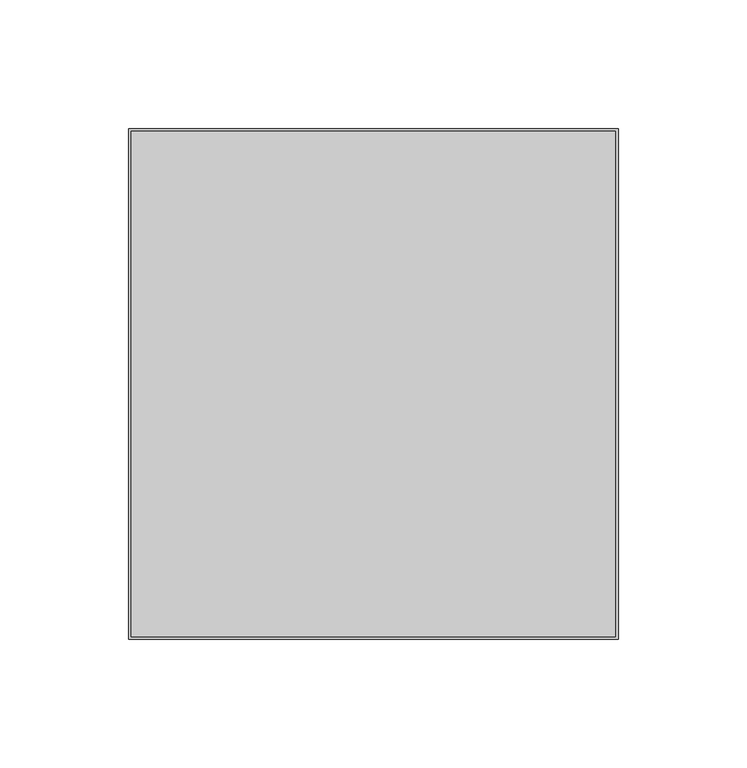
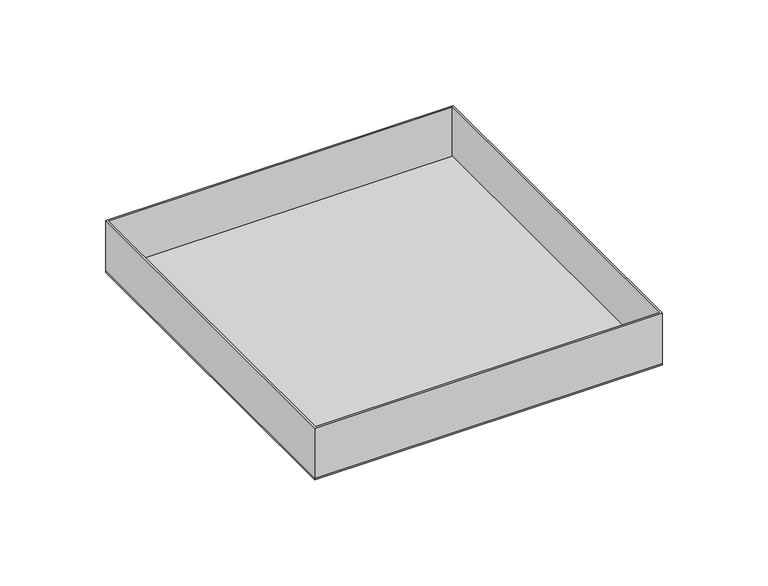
"""IFC4 building model written with IfcOpenShell, lengths in millimetres: proxy geometry, durlum_S4_panel : durlum_S4_panel_wall_corner."""

import ifcopenshell
import ifcopenshell.guid

model = None  # the IFC model being written
_history = None  # IfcOwnerHistory: only IFC2X3 demands one
_inside = {}  # id of a spatial element -> (the spatial element, [elements in it])
_under = {}  # id of a project, library or spatial element -> (it, [spatial elements below it])
_declared = {}  # id of a project -> (the project, [libraries it declares])
_typed = {}  # id of a type object -> (the type object, [elements of that type])
_made_of = {}  # id of a material, layer set ... -> (it, [elements and type objects made of it])


def new_model(schema):
    """Start an empty IFC model of exactly this schema.

    Asked for "IFC4X3", IfcOpenShell would pick the latest addendum, in which some entities
    have other attributes; the version numbers below select the first issue.
    IFC2X3 requires an IfcOwnerHistory on every rooted entity: one is made here for all.
    """
    global model, _history
    if schema == "IFC4X3":
        model = ifcopenshell.file(schema_version=(4, 3, 0, 0))
    else:
        model = ifcopenshell.file(schema=schema)
    _inside.clear()
    _under.clear()
    _declared.clear()
    _typed.clear()
    _made_of.clear()
    _history = None
    if model.schema == "IFC2X3":
        org = make("IfcOrganization", Name="unknown")
        user = make(
            "IfcPersonAndOrganization",
            ThePerson=make("IfcPerson", FamilyName="unknown"),
            TheOrganization=org,
        )
        app = make(
            "IfcApplication",
            ApplicationDeveloper=org,
            Version="unknown",
            ApplicationFullName="unknown",
            ApplicationIdentifier="unknown",
        )
        _history = make(
            "IfcOwnerHistory",
            OwningUser=user,
            OwningApplication=app,
            ChangeAction="ADDED",
            CreationDate=0,
        )
    return model


def make(cls, **values):
    """One entity of the class cls with the attributes given. An attribute that is None is left unset."""
    return model.create_entity(
        cls, **{name: value for name, value in values.items() if value is not None}
    )


def rooted(cls, **values):
    """An entity with a GlobalId (a new one), such as an element, a storey or a relation."""
    return make(cls, GlobalId=ifcopenshell.guid.new(), OwnerHistory=_history, **values)


def si_unit(unit_type, name, prefix=None):
    """IfcSIUnit, for example si_unit("LENGTHUNIT", "METRE", prefix="MILLI")."""
    return make("IfcSIUnit", UnitType=unit_type, Prefix=prefix, Name=name)


def assignment(units):
    """IfcUnitAssignment: the units of a project."""
    return None if units is None else make("IfcUnitAssignment", Units=units)


def point(xyz):
    """IfcCartesianPoint."""
    return None if xyz is None else make("IfcCartesianPoint", Coordinates=xyz)


def direction(xyz):
    """IfcDirection."""
    return None if xyz is None else make("IfcDirection", DirectionRatios=xyz)


def frame(location, z_axis=None, x_axis=None):
    """IfcAxis2Placement3D, a coordinate frame: its origin and axes. An axis left out is left unset."""
    return make(
        "IfcAxis2Placement3D",
        Location=point(location),
        Axis=direction(z_axis),
        RefDirection=direction(x_axis),
    )


def origin():
    """The frame at (0, 0, 0) with its axes left unset."""
    return frame((0.0, 0.0, 0.0))


def origin_with_axes():
    """The frame at (0, 0, 0) with the z axis (0, 0, 1) and the x axis (1, 0, 0) written out."""
    return frame((0.0, 0.0, 0.0), z_axis=(0.0, 0.0, 1.0), x_axis=(1.0, 0.0, 0.0))


def place(relative_to, where):
    """IfcLocalPlacement: puts the frame where relative to a parent placement (None: the world)."""
    return make(
        "IfcLocalPlacement", PlacementRelTo=relative_to, RelativePlacement=where
    )


def context(
    kind, dimensions, precision=None, world=None, true_north=None, identifier=None
):
    """IfcGeometricRepresentationContext, for example the 3D "Model" context."""
    return make(
        "IfcGeometricRepresentationContext",
        ContextIdentifier=identifier,
        ContextType=kind,
        CoordinateSpaceDimension=dimensions,
        Precision=precision,
        WorldCoordinateSystem=world,
        TrueNorth=true_north,
    )


def project(units=None, contexts=None):
    """IfcProject with its units and contexts."""
    return rooted(
        "IfcProject",
        Name="project",
        RepresentationContexts=contexts,
        UnitsInContext=assignment(units),
    )


def spatial(cls, under=None, at=None, **own):
    """A site, building, storey or space (cls), placed at a placement, below another one or the project."""
    s = rooted(cls, ObjectPlacement=at, **own)
    if under is not None:
        _under.setdefault(under.id(), (under, []))[1].append(s)
    return s


def polyline(points):
    """IfcPolyline through the points."""
    return make("IfcPolyline", Points=[point(p) for p in points])


def outline(outer, holes=None, kind="AREA"):
    """IfcArbitraryClosedProfileDef: a profile drawn as a closed curve; with holes, ...WithVoids."""
    if holes is None:
        return make("IfcArbitraryClosedProfileDef", ProfileType=kind, OuterCurve=outer)
    return make(
        "IfcArbitraryProfileDefWithVoids",
        ProfileType=kind,
        OuterCurve=outer,
        InnerCurves=holes,
    )


def extrude(swept, where, along, depth):
    """IfcExtrudedAreaSolid: the profile swept, set in the frame where, extruded along a direction by depth."""
    return make(
        "IfcExtrudedAreaSolid",
        SweptArea=swept,
        Position=where,
        ExtrudedDirection=direction(along),
        Depth=depth,
    )


def shape(context_of_items, identifier, shape_type, items):
    """IfcShapeRepresentation: the items that make up one representation, for example the "Body"."""
    return make(
        "IfcShapeRepresentation",
        ContextOfItems=context_of_items,
        RepresentationIdentifier=identifier,
        RepresentationType=shape_type,
        Items=items,
    )


def source(mapping_origin, context_of_items, identifier, shape_type, items):
    """IfcRepresentationMap: a shape defined once, which mapped items show again and again."""
    return make(
        "IfcRepresentationMap",
        MappingOrigin=mapping_origin,
        MappedRepresentation=shape(context_of_items, identifier, shape_type, items),
    )


def transform(
    local_origin,
    x_axis=None,
    y_axis=None,
    z_axis=None,
    scale=None,
    scale2=None,
    scale3=None,
    uniform=True,
):
    """IfcCartesianTransformationOperator3D, or its non-uniform kind. x_axis, y_axis, z_axis: its Axis1, 2, 3."""
    if uniform:
        return make(
            "IfcCartesianTransformationOperator3D",
            Axis1=direction(x_axis),
            Axis2=direction(y_axis),
            LocalOrigin=point(local_origin),
            Scale=scale,
            Axis3=direction(z_axis),
        )
    return make(
        "IfcCartesianTransformationOperator3DnonUniform",
        Axis1=direction(x_axis),
        Axis2=direction(y_axis),
        LocalOrigin=point(local_origin),
        Scale=scale,
        Axis3=direction(z_axis),
        Scale2=scale2,
        Scale3=scale3,
    )


def mapped(mapping_source, mapping_target):
    """IfcMappedItem: shows the shape of a source again, moved by a transform."""
    return make(
        "IfcMappedItem", MappingSource=mapping_source, MappingTarget=mapping_target
    )


def made_of(thing, what):
    """Note that an element or type object is made of a material, layer set ...; save() writes the relation."""
    if what is not None:
        _made_of.setdefault(what.id(), (what, []))[1].append(thing)
    return thing


def element(
    cls,
    number,
    at=None,
    inside=None,
    cuts=None,
    type_object=None,
    material=None,
    context=None,
    identifier="Body",
    shape_type=None,
    held_by="IfcProductDefinitionShape",
    body=None,
    shapes=None,
    **own,
):
    """One element of the class cls, such as IfcWall. Its Tag is "e" and its number.

    at: its placement. inside: the storey or other place that contains it. cuts: it is an
    opening in that element (IfcRelVoidsElement). A single representation is given by context,
    identifier, shape_type and body (its items); several are given by shapes. held_by: the class
    of the entity that holds the representations. save() writes the other relations.
    """
    e = rooted(cls, Tag="e%d" % number, ObjectPlacement=at, **own)
    if body is not None:
        shapes = [shape(context, identifier, shape_type, body)]
    if shapes is not None:
        e.Representation = make(held_by, Representations=shapes)
    if inside is not None:
        _inside.setdefault(inside.id(), (inside, []))[1].append(e)
    if cuts is not None:
        rooted(
            "IfcRelVoidsElement", RelatingBuildingElement=cuts, RelatedOpeningElement=e
        )
    if type_object is not None:
        _typed.setdefault(type_object.id(), (type_object, []))[1].append(e)
    return made_of(e, material)


def aggregate(whole, parts):
    """IfcRelAggregates: a whole, such as a stair, and the parts it consists of."""
    return rooted("IfcRelAggregates", RelatingObject=whole, RelatedObjects=parts)


def save(model, path):
    """Write the relations noted so far, then the file.

    IfcRelAggregates (storeys below a building ...), IfcRelContainedInSpatialStructure (elements
    in a storey), IfcRelDefinesByType, IfcRelAssociatesMaterial and IfcRelDeclares: one each for
    every whole, place, type object, material and project.
    """
    for whole, parts in _under.values():
        aggregate(whole, parts)
    for where, things in _inside.values():
        rooted(
            "IfcRelContainedInSpatialStructure",
            RelatedElements=things,
            RelatingStructure=where,
        )
    for kind, things in _typed.values():
        rooted("IfcRelDefinesByType", RelatedObjects=things, RelatingType=kind)
    for what, things in _made_of.values():
        rooted("IfcRelAssociatesMaterial", RelatedObjects=things, RelatingMaterial=what)
    for by, libraries in _declared.values():
        rooted("IfcRelDeclares", RelatingContext=by, RelatedDefinitions=libraries)
    model.write(path)


def generic_models_23599627(model_context):
    return source(origin(), model_context, "Body", "SweptSolid", [
        extrude(outline(polyline([(95.0, 99.0), (95.0, -99.0), (-95.0, -99.0), (-95.0, 99.0), (95.0, 99.0)]), holes=[polyline([(94.0, 98.0), (-94.0, 98.0), (-94.0, -98.0), (94.0, -98.0), (94.0, 98.0)])]), frame((0.0, 0.0, 1.0), z_axis=(0.0, 0.0, 1.0), x_axis=(1.0, 0.0, 0.0)), (0.0, 0.0, 1.0), 29.0),
        extrude(outline(polyline([(94.0, 98.0), (94.0, -98.0), (-94.0, -98.0), (-94.0, 98.0), (94.0, 98.0)])), frame((0.0, 0.0, 1.0), z_axis=(0.0, 0.0, 1.0), x_axis=(1.0, 0.0, 0.0)), (0.0, 0.0, 1.0), 1.0),
        extrude(outline(polyline([(95.0, 99.0), (95.0, -99.0), (-95.0, -99.0), (-95.0, 99.0), (95.0, 99.0)])), origin_with_axes(), (0.0, 0.0, 1.0), 1.0),
    ])


if __name__ == "__main__":
    model = new_model("IFC4")
    model_context = context("Model", 3, world=origin())
    ifc_project = project(units=[si_unit("LENGTHUNIT", "METRE", prefix="MILLI")], contexts=[model_context])
    site = spatial("IfcSite", under=ifc_project)
    building = spatial("IfcBuilding", under=site)
    placement = place(None, origin())
    generic_models_shape = generic_models_23599627(model_context)
    element("IfcBuildingElementProxy", 1, Name="durlum_S4_panel : durlum_S4_panel_wall_corner", ObjectType="durlum_S4_panel : durlum_S4_panel_wall_corner", at=placement, inside=building, context=model_context, shape_type="MappedRepresentation", body=[
        mapped(generic_models_shape, transform((0.0, 0.0, 0.0), x_axis=(1.0, 0.0, 0.0), y_axis=(0.0, 1.0, 0.0), z_axis=(0.0, 0.0, 1.0))),
    ])
    save(model, "model.ifc")
